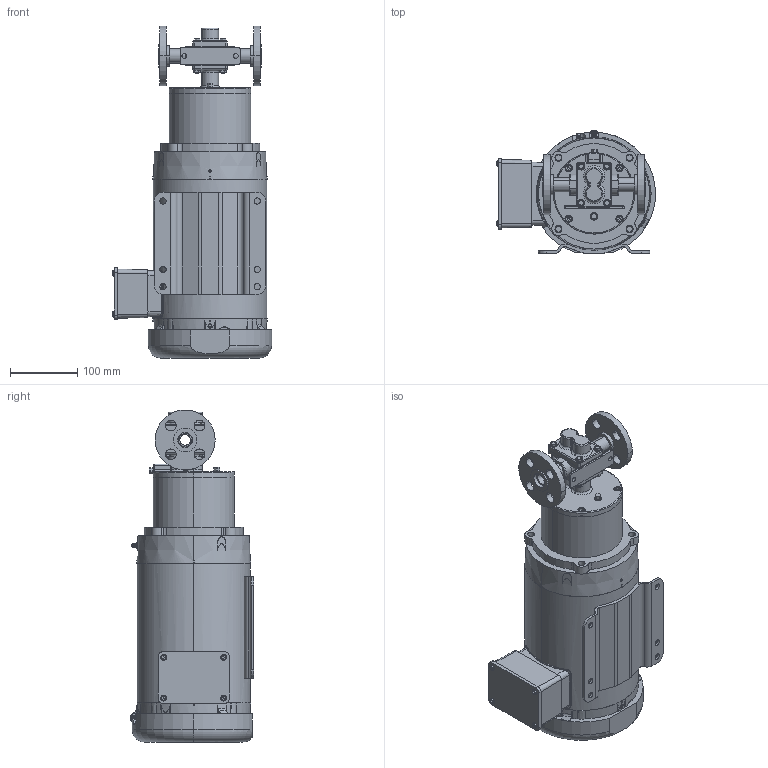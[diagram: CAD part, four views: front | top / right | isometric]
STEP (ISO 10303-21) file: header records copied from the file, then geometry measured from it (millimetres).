
FILE_DESCRIPTION (( 'STEP AP214' ), '1' );
FILE_NAME ('GMC4 FLNG 140TC MOTOR.STEP', '2025-08-29T14:09:34', ( '' ), ( '' ), 'SwSTEP 2.0', 'SolidWorks 2024', '' );
FILE_SCHEMA (( 'AUTOMOTIVE_DESIGN' ));
Length unit declared in the file: inch
Products named in the file (1): GMC4 FLNG 140TC MOTOR
Bounding box: 236.18 x 182.97 x 492.44 mm (x, y, z)
Volume: 8000812.9 mm3; surface area: 511342.4 mm2
Topology: 23 solids, 23 shells, 2282 faces, 5807 edges, 3735 vertices
Faces by surface type: cylinder 904, plane 895, cone 295, torus 73, bspline 69, sphere 46
Entity records: 83489 total; most frequent: CARTESIAN_POINT 27691, DIRECTION 11737, ORIENTED_EDGE 11562, EDGE_CURVE 5781, AXIS2_PLACEMENT_3D 4516, VERTEX_POINT 3733, LINE 2705, VECTOR 2705
